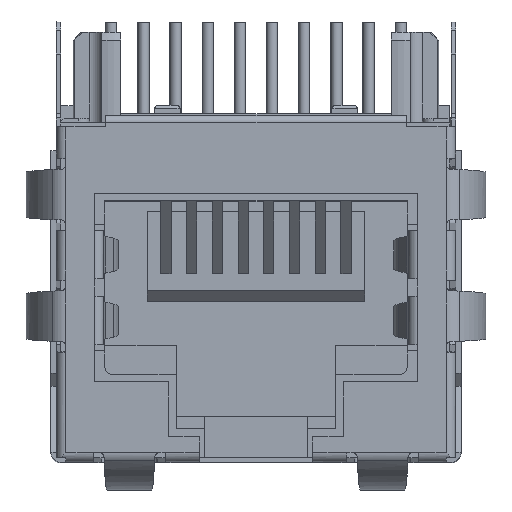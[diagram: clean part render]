
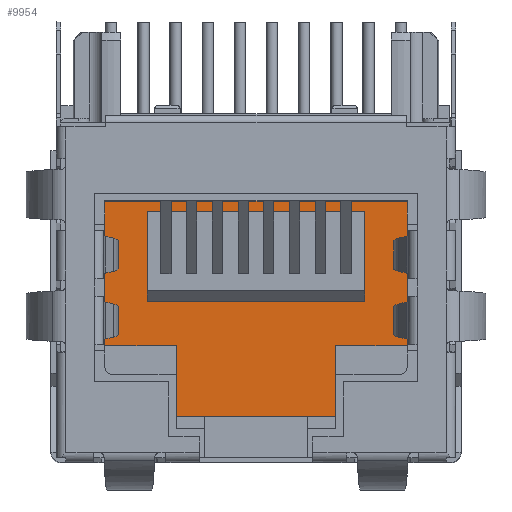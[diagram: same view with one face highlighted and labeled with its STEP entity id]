
A CAD part, top view. The second image highlights one B-rep face of the part: STEP entity #9954.
In plain terms, the highlighted planar face has unit normal (0, 0, 1).
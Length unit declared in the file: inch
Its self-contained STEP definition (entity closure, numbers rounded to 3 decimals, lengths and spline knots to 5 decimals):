
#5 = CARTESIAN_POINT ( 'NONE',  ( 0.13189, 0.2437, 0.40709 ) ) ;
#571 = EDGE_CURVE ( 'NONE', #5989, #11034, #18446, .T. ) ;
#672 = VERTEX_POINT ( 'NONE', #7906 ) ;
#995 = VECTOR ( 'NONE', #10186, 39.37008 ) ;
#1104 = CARTESIAN_POINT ( 'NONE',  ( 0.17717, 0.06417, 0.40709 ) ) ;
#1335 = DIRECTION ( 'NONE',  ( 1., 0., 0. ) ) ;
#1469 = CARTESIAN_POINT ( 'NONE',  ( 0.53622, 0.39961, 0.40709 ) ) ;
#1507 = CARTESIAN_POINT ( 'NONE',  ( 0.13189, 0.38425, 0.40709 ) ) ;
#1835 = EDGE_CURVE ( 'NONE', #13754, #21043, #24510, .T. ) ;
#2131 = CARTESIAN_POINT ( 'NONE',  ( 0.47047, 0.38425, 0.40709 ) ) ;
#2410 = DIRECTION ( 'NONE',  ( 0., -1., 0. ) ) ;
#2458 = CARTESIAN_POINT ( 'NONE',  ( 0.53622, 0.17441, 0.40709 ) ) ;
#2563 = VERTEX_POINT ( 'NONE', #20567 ) ;
#2648 = CARTESIAN_POINT ( 'NONE',  ( 0.56693, 0., 0.40709 ) ) ;
#2678 = ORIENTED_EDGE ( 'NONE', *, *, #8538, .F. ) ;
#2740 = EDGE_LOOP ( 'NONE', ( #21615, #23181, #23929, #10338, #14853, #3454, #22379, #23747 ) ) ;
#2805 = CARTESIAN_POINT ( 'NONE',  ( 0.4252, 0.06417, 0.40709 ) ) ;
#3454 = ORIENTED_EDGE ( 'NONE', *, *, #571, .T. ) ;
#3486 = LINE ( 'NONE', #1507, #22786 ) ;
#3654 = ORIENTED_EDGE ( 'NONE', *, *, #7354, .T. ) ;
#3855 = LINE ( 'NONE', #13529, #19004 ) ;
#4166 = ORIENTED_EDGE ( 'NONE', *, *, #23096, .T. ) ;
#4394 = VERTEX_POINT ( 'NONE', #10266 ) ;
#5989 = VERTEX_POINT ( 'NONE', #24060 ) ;
#6581 = VERTEX_POINT ( 'NONE', #15065 ) ;
#6727 = CARTESIAN_POINT ( 'NONE',  ( 0.4252, 0.17441, 0.40709 ) ) ;
#7041 = CARTESIAN_POINT ( 'NONE',  ( 0.4252, 0.17441, 0.40709 ) ) ;
#7208 = DIRECTION ( 'NONE',  ( 1., 0., 0. ) ) ;
#7354 = EDGE_CURVE ( 'NONE', #17232, #19796, #3855, .T. ) ;
#7691 = VECTOR ( 'NONE', #7946, 39.37008 ) ;
#7906 = CARTESIAN_POINT ( 'NONE',  ( 0.06614, 0.17441, 0.40709 ) ) ;
#7946 = DIRECTION ( 'NONE',  ( 1., 0., 0. ) ) ;
#8263 = LINE ( 'NONE', #12363, #12068 ) ;
#8394 = VECTOR ( 'NONE', #9184, 39.37008 ) ;
#8538 = EDGE_CURVE ( 'NONE', #4394, #19796, #16993, .T. ) ;
#9032 = EDGE_CURVE ( 'NONE', #21043, #5989, #15969, .T. ) ;
#9074 = CARTESIAN_POINT ( 'NONE',  ( 0.13189, 0.38425, 0.40709 ) ) ;
#9184 = DIRECTION ( 'NONE',  ( 0., 1., 0. ) ) ;
#9298 = AXIS2_PLACEMENT_3D ( 'NONE', #2648, #21125, #2410 ) ;
#9954 = ADVANCED_FACE ( 'NONE', ( #23344, #21241 ), #19378, .F. ) ;
#9959 = CARTESIAN_POINT ( 'NONE',  ( 0.17717, 0.17441, 0.40709 ) ) ;
#10186 = DIRECTION ( 'NONE',  ( 1., 0., 0. ) ) ;
#10237 = EDGE_CURVE ( 'NONE', #15833, #17232, #3486, .T. ) ;
#10266 = CARTESIAN_POINT ( 'NONE',  ( 0.13189, 0.2437, 0.40709 ) ) ;
#10326 = LINE ( 'NONE', #9959, #23442 ) ;
#10338 = ORIENTED_EDGE ( 'NONE', *, *, #1835, .T. ) ;
#10519 = EDGE_CURVE ( 'NONE', #672, #6581, #16349, .T. ) ;
#11034 = VERTEX_POINT ( 'NONE', #16446 ) ;
#11435 = DIRECTION ( 'NONE',  ( 0., -1., 0. ) ) ;
#12068 = VECTOR ( 'NONE', #19910, 39.37008 ) ;
#12331 = EDGE_CURVE ( 'NONE', #12838, #13754, #23760, .T. ) ;
#12332 = EDGE_CURVE ( 'NONE', #11034, #672, #8263, .T. ) ;
#12363 = CARTESIAN_POINT ( 'NONE',  ( 0.06614, 0.39961, 0.40709 ) ) ;
#12838 = VERTEX_POINT ( 'NONE', #15503 ) ;
#12950 = VECTOR ( 'NONE', #14493, 39.37008 ) ;
#13529 = CARTESIAN_POINT ( 'NONE',  ( 0.47047, 0.38425, 0.40709 ) ) ;
#13754 = VERTEX_POINT ( 'NONE', #6727 ) ;
#14211 = DIRECTION ( 'NONE',  ( 0., 1., 0. ) ) ;
#14377 = CARTESIAN_POINT ( 'NONE',  ( 0.06614, 0.17441, 0.40709 ) ) ;
#14493 = DIRECTION ( 'NONE',  ( 1., 0., 0. ) ) ;
#14672 = EDGE_LOOP ( 'NONE', ( #3654, #2678, #4166, #19204 ) ) ;
#14818 = CARTESIAN_POINT ( 'NONE',  ( 0.53622, 0.17441, 0.40709 ) ) ;
#14853 = ORIENTED_EDGE ( 'NONE', *, *, #9032, .T. ) ;
#15065 = CARTESIAN_POINT ( 'NONE',  ( 0.17717, 0.17441, 0.40709 ) ) ;
#15503 = CARTESIAN_POINT ( 'NONE',  ( 0.4252, 0.06417, 0.40709 ) ) ;
#15532 = DIRECTION ( 'NONE',  ( 0., -1., 0. ) ) ;
#15833 = VERTEX_POINT ( 'NONE', #9074 ) ;
#15969 = LINE ( 'NONE', #2458, #20356 ) ;
#16349 = LINE ( 'NONE', #14377, #995 ) ;
#16384 = VECTOR ( 'NONE', #14211, 39.37008 ) ;
#16446 = CARTESIAN_POINT ( 'NONE',  ( 0.06614, 0.39961, 0.40709 ) ) ;
#16700 = VECTOR ( 'NONE', #20431, 39.37008 ) ;
#16993 = LINE ( 'NONE', #5, #7691 ) ;
#17232 = VERTEX_POINT ( 'NONE', #2131 ) ;
#18446 = LINE ( 'NONE', #1469, #16700 ) ;
#19004 = VECTOR ( 'NONE', #11435, 39.37008 ) ;
#19204 = ORIENTED_EDGE ( 'NONE', *, *, #10237, .T. ) ;
#19378 = PLANE ( 'NONE',  #9298 ) ;
#19796 = VERTEX_POINT ( 'NONE', #20130 ) ;
#19910 = DIRECTION ( 'NONE',  ( 0., -1., 0. ) ) ;
#20010 = VECTOR ( 'NONE', #1335, 39.37008 ) ;
#20130 = CARTESIAN_POINT ( 'NONE',  ( 0.47047, 0.2437, 0.40709 ) ) ;
#20356 = VECTOR ( 'NONE', #23280, 39.37008 ) ;
#20431 = DIRECTION ( 'NONE',  ( -1., 0., 0. ) ) ;
#20463 = LINE ( 'NONE', #22452, #8394 ) ;
#20567 = CARTESIAN_POINT ( 'NONE',  ( 0.17717, 0.06417, 0.40709 ) ) ;
#21043 = VERTEX_POINT ( 'NONE', #14818 ) ;
#21125 = DIRECTION ( 'NONE',  ( 0., 0., -1. ) ) ;
#21241 = FACE_OUTER_BOUND ( 'NONE', #2740, .T. ) ;
#21615 = ORIENTED_EDGE ( 'NONE', *, *, #22863, .T. ) ;
#21686 = LINE ( 'NONE', #1104, #12950 ) ;
#22379 = ORIENTED_EDGE ( 'NONE', *, *, #12332, .T. ) ;
#22452 = CARTESIAN_POINT ( 'NONE',  ( 0.13189, 0.2437, 0.40709 ) ) ;
#22786 = VECTOR ( 'NONE', #7208, 39.37008 ) ;
#22863 = EDGE_CURVE ( 'NONE', #6581, #2563, #10326, .T. ) ;
#23096 = EDGE_CURVE ( 'NONE', #4394, #15833, #20463, .T. ) ;
#23181 = ORIENTED_EDGE ( 'NONE', *, *, #23381, .T. ) ;
#23280 = DIRECTION ( 'NONE',  ( 0., 1., 0. ) ) ;
#23344 = FACE_BOUND ( 'NONE', #14672, .T. ) ;
#23381 = EDGE_CURVE ( 'NONE', #2563, #12838, #21686, .T. ) ;
#23442 = VECTOR ( 'NONE', #15532, 39.37008 ) ;
#23747 = ORIENTED_EDGE ( 'NONE', *, *, #10519, .T. ) ;
#23760 = LINE ( 'NONE', #2805, #16384 ) ;
#23929 = ORIENTED_EDGE ( 'NONE', *, *, #12331, .T. ) ;
#24060 = CARTESIAN_POINT ( 'NONE',  ( 0.53622, 0.39961, 0.40709 ) ) ;
#24510 = LINE ( 'NONE', #7041, #20010 ) ;
